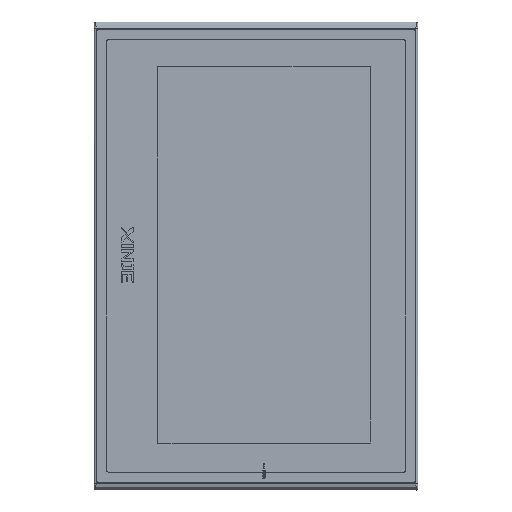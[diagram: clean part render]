
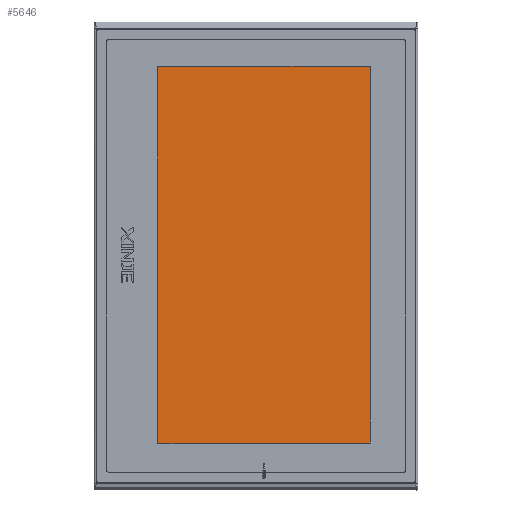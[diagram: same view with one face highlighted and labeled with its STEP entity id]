
A CAD part, top view. The second image highlights one B-rep face of the part: STEP entity #5646.
In plain terms, the highlighted planar face has unit normal (0, 0, -1).
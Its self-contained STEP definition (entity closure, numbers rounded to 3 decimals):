
#5646=ADVANCED_FACE('',(#8517),#64482,.T.);
#8517=FACE_OUTER_BOUND('',#11390,.T.);
#11390=EDGE_LOOP('',(#14638));
#14638=ORIENTED_EDGE('',*,*,#29653,.T.);
#29653=EDGE_CURVE('',#53368,#53368,#42483,.T.);
#42483=B_SPLINE_CURVE_WITH_KNOTS('',1,(#72461,#72462,#72463,#72464,#72465),
 .UNSPECIFIED.,.T.,.F.,(2,1,1,1,2),(0.,633.374,990.538,1623.912,1981.077),
 .UNSPECIFIED.);
#53368=VERTEX_POINT('',#72460);
#64482=PLANE('',#66949);
#66949=AXIS2_PLACEMENT_3D('',#72459,#69401,$);
#69401=DIRECTION('',(0.,0.,-1.));
#72459=CARTESIAN_POINT('',(-58.274,112.429,8.428));
#72460=CARTESIAN_POINT('',(67.726,112.429,8.428));
#72461=CARTESIAN_POINT('',(67.726,112.429,8.428));
#72462=CARTESIAN_POINT('',(67.726,-111.011,8.428));
#72463=CARTESIAN_POINT('',(-58.274,-111.011,8.428));
#72464=CARTESIAN_POINT('',(-58.274,112.429,8.428));
#72465=CARTESIAN_POINT('',(67.726,112.429,8.428));
